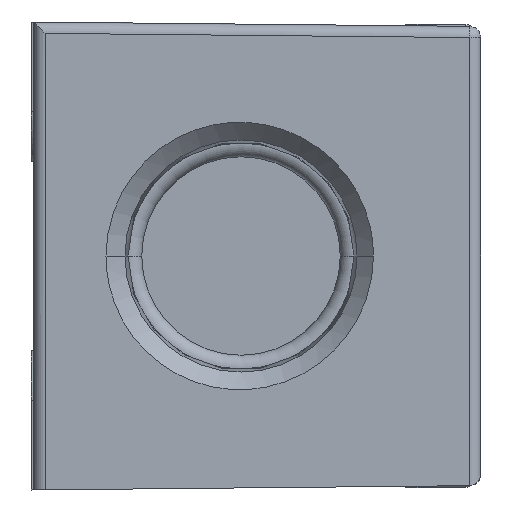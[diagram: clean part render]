
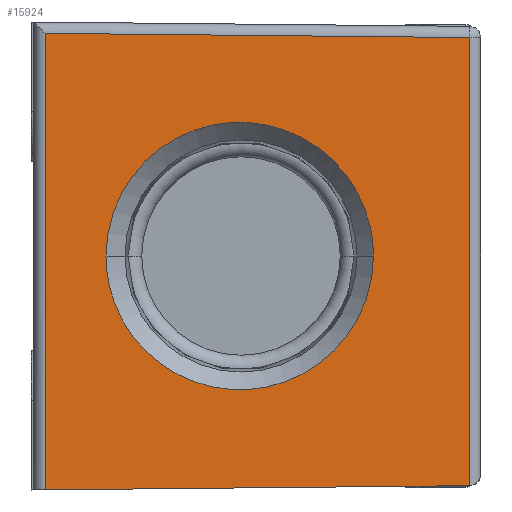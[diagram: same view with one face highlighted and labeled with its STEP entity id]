
A CAD part, front view. The second image highlights one B-rep face of the part: STEP entity #15924.
In plain terms, the highlighted planar face has unit normal (0.01, -1, 0).
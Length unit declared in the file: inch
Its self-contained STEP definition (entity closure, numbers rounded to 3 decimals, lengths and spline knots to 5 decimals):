
#2062=DIRECTION('',(-1.,-0.01,-0.01));
#2063=VECTOR('',#2062,1.70017);
#2064=CARTESIAN_POINT('',(0.90044,-3.66769,
-0.92019));
#2065=LINE('',#2064,#2063);
#2280=DIRECTION('',(0.,0.,-1.));
#2281=VECTOR('',#2280,1.79538);
#2282=CARTESIAN_POINT('',(0.90044,-3.66769,
0.87519));
#2283=LINE('',#2282,#2281);
#2299=DIRECTION('',(-1.,-0.01,0.01));
#2300=VECTOR('',#2299,1.70017);
#2301=CARTESIAN_POINT('',(0.90044,-3.66769,
0.87519));
#2302=LINE('',#2301,#2300);
#2303=CARTESIAN_POINT('',(-0.55605,-3.68205,0.));
#2304=CARTESIAN_POINT('',(-0.55605,-3.68205,
0.03157));
#2305=CARTESIAN_POINT('',(-0.55044,-3.682,
0.09707));
#2306=CARTESIAN_POINT('',(-0.52201,-3.68172,
0.19781));
#2307=CARTESIAN_POINT('',(-0.47211,-3.68122,
0.2949));
#2308=CARTESIAN_POINT('',(-0.40187,-3.68053,
0.38156));
#2309=CARTESIAN_POINT('',(-0.3152,-3.67968,
0.45181));
#2310=CARTESIAN_POINT('',(-0.23429,-3.67888,
0.49338));
#2311=CARTESIAN_POINT('',(-0.16773,-3.67822,
0.51593));
#2312=CARTESIAN_POINT('',(-0.11767,-3.67773,
0.52763));
#2313=CARTESIAN_POINT('',(-0.07647,-3.67732,
0.53323));
#2314=CARTESIAN_POINT('',(-0.04409,-3.677,
0.53539));
#2315=CARTESIAN_POINT('',(-0.02028,-3.67677,
0.53592));
#2316=CARTESIAN_POINT('',(0.00352,-3.67653,
0.53539));
#2317=CARTESIAN_POINT('',(0.03591,-3.67621,
0.53323));
#2318=CARTESIAN_POINT('',(0.0771,-3.67581,
0.52763));
#2319=CARTESIAN_POINT('',(0.12716,-3.67531,
0.51593));
#2320=CARTESIAN_POINT('',(0.19372,-3.67466,
0.49338));
#2321=CARTESIAN_POINT('',(0.27463,-3.67386,
0.45181));
#2322=CARTESIAN_POINT('',(0.3613,-3.67301,
0.38156));
#2323=CARTESIAN_POINT('',(0.43154,-3.67231,
0.2949));
#2324=CARTESIAN_POINT('',(0.48145,-3.67182,
0.19781));
#2325=CARTESIAN_POINT('',(0.50988,-3.67154,
0.09707));
#2326=CARTESIAN_POINT('',(0.51549,-3.67149,
0.03157));
#2327=CARTESIAN_POINT('',(0.51549,-3.67149,0.));
#2329=CARTESIAN_POINT('',(0.51549,-3.67149,0.));
#2330=CARTESIAN_POINT('',(0.51549,-3.67149,
-0.03157));
#2331=CARTESIAN_POINT('',(0.50988,-3.67154,
-0.09707));
#2332=CARTESIAN_POINT('',(0.48145,-3.67182,
-0.19781));
#2333=CARTESIAN_POINT('',(0.43154,-3.67231,
-0.2949));
#2334=CARTESIAN_POINT('',(0.3613,-3.67301,
-0.38156));
#2335=CARTESIAN_POINT('',(0.27463,-3.67386,
-0.45181));
#2336=CARTESIAN_POINT('',(0.19372,-3.67466,
-0.49338));
#2337=CARTESIAN_POINT('',(0.12716,-3.67531,
-0.51593));
#2338=CARTESIAN_POINT('',(0.0771,-3.67581,
-0.52763));
#2339=CARTESIAN_POINT('',(0.03591,-3.67621,
-0.53323));
#2340=CARTESIAN_POINT('',(0.00352,-3.67653,
-0.53539));
#2341=CARTESIAN_POINT('',(-0.02028,-3.67677,
-0.53592));
#2342=CARTESIAN_POINT('',(-0.04409,-3.677,
-0.53539));
#2343=CARTESIAN_POINT('',(-0.07647,-3.67732,
-0.53323));
#2344=CARTESIAN_POINT('',(-0.11767,-3.67773,
-0.52763));
#2345=CARTESIAN_POINT('',(-0.16773,-3.67822,
-0.51593));
#2346=CARTESIAN_POINT('',(-0.23429,-3.67888,
-0.49338));
#2347=CARTESIAN_POINT('',(-0.3152,-3.67968,
-0.45181));
#2348=CARTESIAN_POINT('',(-0.40187,-3.68053,
-0.38156));
#2349=CARTESIAN_POINT('',(-0.47211,-3.68122,
-0.2949));
#2350=CARTESIAN_POINT('',(-0.52201,-3.68172,
-0.19781));
#2351=CARTESIAN_POINT('',(-0.55044,-3.682,
-0.09707));
#2352=CARTESIAN_POINT('',(-0.55605,-3.68205,
-0.03157));
#2353=CARTESIAN_POINT('',(-0.55605,-3.68205,0.));
#2379=DIRECTION('',(0.,0.,1.));
#2380=VECTOR('',#2379,1.82891);
#2381=CARTESIAN_POINT('',(-0.79956,-3.68445,
-0.93695));
#2382=LINE('',#2381,#2380);
#12254=CARTESIAN_POINT('',(0.90044,-3.66769,
-0.92019));
#12255=VERTEX_POINT('',#12254);
#12256=CARTESIAN_POINT('',(-0.79956,-3.68445,
-0.93695));
#12257=VERTEX_POINT('',#12256);
#12320=CARTESIAN_POINT('',(0.90044,-3.66769,
0.87519));
#12321=VERTEX_POINT('',#12320);
#12322=CARTESIAN_POINT('',(-0.79956,-3.68445,
0.89196));
#12323=VERTEX_POINT('',#12322);
#12372=VERTEX_POINT('',#2303);
#12373=VERTEX_POINT('',#2327);
#15906=CARTESIAN_POINT('',(-0.855,-3.685,-1.9922));
#15907=DIRECTION('',(0.01,-1.,0.));
#15908=DIRECTION('',(0.,0.,1.));
#15909=AXIS2_PLACEMENT_3D('',#15906,#15907,#15908);
#15910=PLANE('',#15909);
#15911=ORIENTED_EDGE('',*,*,#15898,.F.);
#15912=ORIENTED_EDGE('',*,*,#15875,.T.);
#15913=ORIENTED_EDGE('',*,*,#15605,.T.);
#15915=ORIENTED_EDGE('',*,*,#15914,.T.);
#15916=EDGE_LOOP('',(#15911,#15912,#15913,#15915));
#15917=FACE_OUTER_BOUND('',#15916,.F.);
#15919=ORIENTED_EDGE('',*,*,#15918,.F.);
#15921=ORIENTED_EDGE('',*,*,#15920,.F.);
#15922=EDGE_LOOP('',(#15919,#15921));
#15923=FACE_BOUND('',#15922,.F.);
#15924=ADVANCED_FACE('',(#15917,#15923),#15910,.T.);
#2328=B_SPLINE_CURVE_WITH_KNOTS('',3,(#2303,#2304,#2305,#2306,#2307,#2308,#2309,
#2310,#2311,#2312,#2313,#2314,#2315,#2316,#2317,#2318,#2319,#2320,#2321,#2322,
#2323,#2324,#2325,#2326,#2327),.UNSPECIFIED.,.F.,.F.,(4,1,1,1,1,1,1,1,1,1,1,1,1,
1,1,1,1,1,1,1,1,1,4),(0.,0.0625,0.125,0.1875,0.25,0.3125,0.375,
0.40625,0.4375,0.46875,0.48438,0.5,0.51563,0.53125,0.5625,
0.59375,0.625,0.6875,0.75,0.8125,0.875,0.9375,1.),
.UNSPECIFIED.);
#2354=B_SPLINE_CURVE_WITH_KNOTS('',3,(#2329,#2330,#2331,#2332,#2333,#2334,#2335,
#2336,#2337,#2338,#2339,#2340,#2341,#2342,#2343,#2344,#2345,#2346,#2347,#2348,
#2349,#2350,#2351,#2352,#2353),.UNSPECIFIED.,.F.,.F.,(4,1,1,1,1,1,1,1,1,1,1,1,1,
1,1,1,1,1,1,1,1,1,4),(0.,0.0625,0.125,0.1875,0.25,0.3125,0.375,
0.40625,0.4375,0.46875,0.48438,0.5,0.51563,0.53125,0.5625,
0.59375,0.625,0.6875,0.75,0.8125,0.875,0.9375,1.),
.UNSPECIFIED.);
#15605=EDGE_CURVE('',#12255,#12257,#2065,.T.);
#15875=EDGE_CURVE('',#12321,#12255,#2283,.T.);
#15898=EDGE_CURVE('',#12321,#12323,#2302,.T.);
#15914=EDGE_CURVE('',#12257,#12323,#2382,.T.);
#15918=EDGE_CURVE('',#12372,#12373,#2328,.T.);
#15920=EDGE_CURVE('',#12373,#12372,#2354,.T.);
